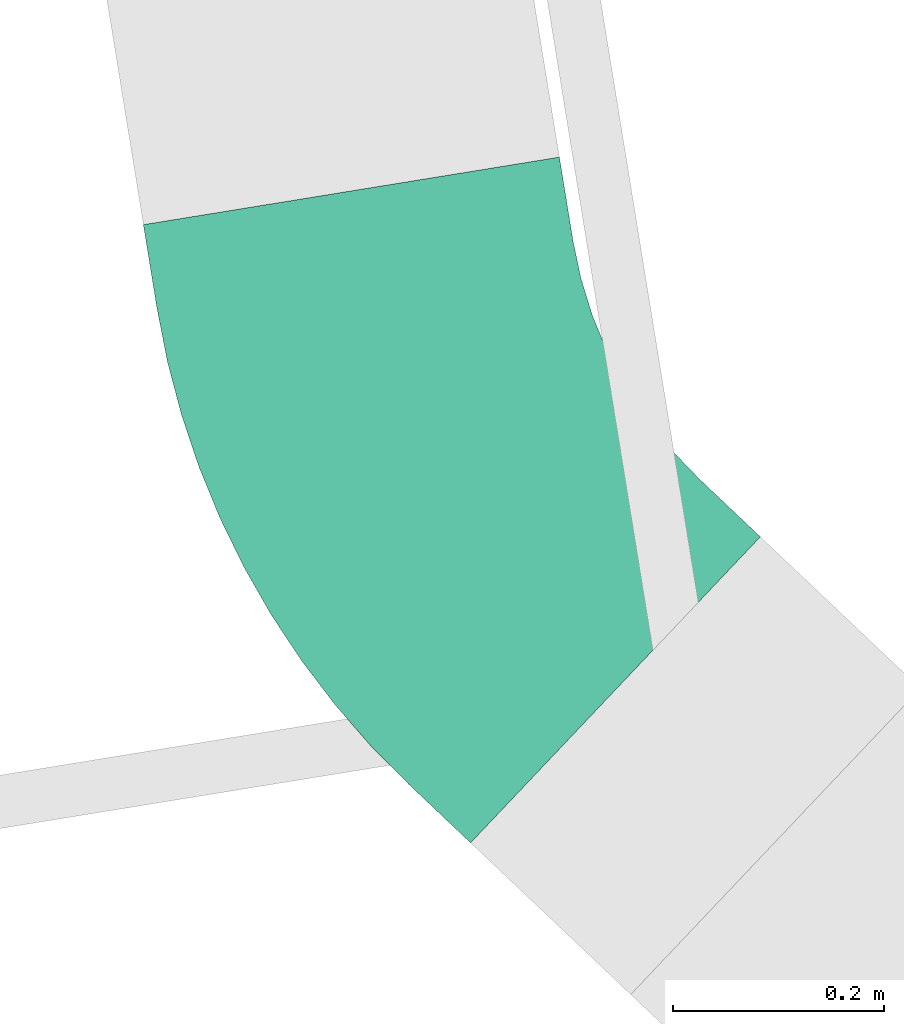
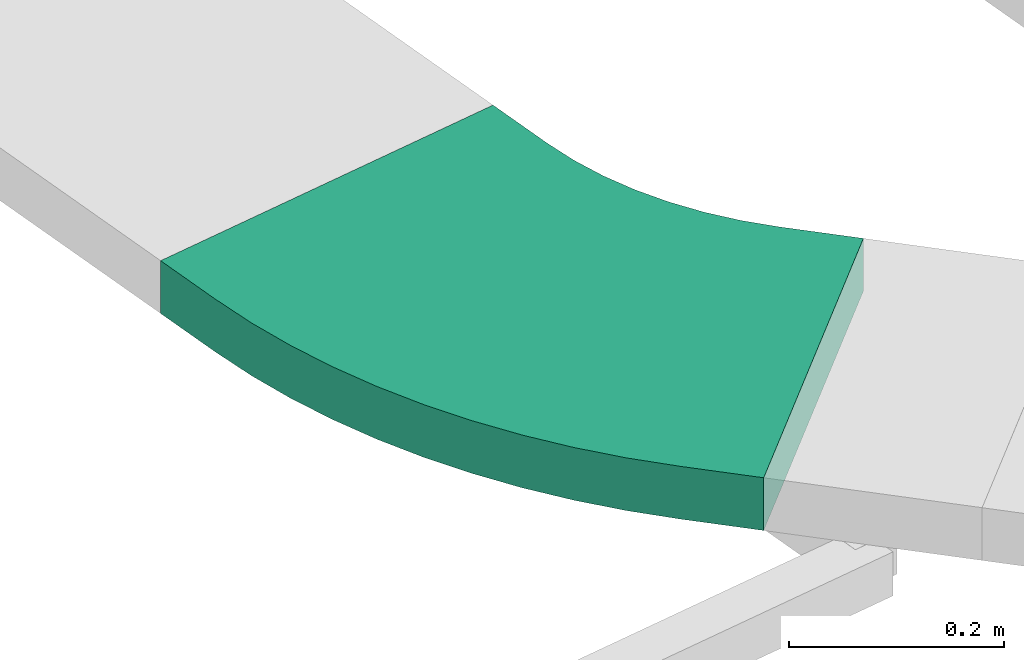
# One storey, part 4 of 20: 1 flow fitting.
"""IFC2X3 building model written with IfcOpenShell, lengths in millimetres."""

from ifc_helpers import new_model, entity, si_unit, converted_unit, derived_unit, direction, frame, frame_2d, origin, origin_with_axes, place, context, subcontext, project, spatial, polyline, circle_curve, parameter, trimmed, segment, composite_curve, outline, extrude, source, transform, mapped, material, type_object, element, save


model = new_model("IFC2X3")

# Units and contexts
model_context = context("Model", 3, precision=0.01, world=origin(), true_north=direction((6.12323399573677e-17, 1.0)))
plan_context = context("Plan", 3, precision=1e-05, world=origin_with_axes())
body_context = subcontext(model_context, "Body", "Model", "MODEL_VIEW")
ifc_project = project(units=[converted_unit("PLANEANGLEUNIT", "DEGREE", entity("IfcPositiveLengthMeasure", 0.0174532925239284), si_unit("PLANEANGLEUNIT", "RADIAN"), dimensions=[0, 0, 0, 0, 0, 0, 0]), si_unit("AREAUNIT", "SQUARE_METRE"), si_unit("LENGTHUNIT", "METRE", prefix="MILLI"), si_unit("MASSUNIT", "GRAM", prefix="KILO"), si_unit("POWERUNIT", "WATT"), si_unit("PRESSUREUNIT", "PASCAL", prefix="KILO"), si_unit("FORCEUNIT", "NEWTON", prefix="KILO"), si_unit("ELECTRICVOLTAGEUNIT", "VOLT"), si_unit("ELECTRICCURRENTUNIT", "AMPERE"), si_unit("THERMODYNAMICTEMPERATUREUNIT", "DEGREE_CELSIUS"), si_unit("TIMEUNIT", "SECOND"), si_unit("VOLUMEUNIT", "CUBIC_METRE"), derived_unit("LINEARVELOCITYUNIT", [(si_unit("LENGTHUNIT", "METRE"), 1), (si_unit("TIMEUNIT", "SECOND"), -1)]), derived_unit("VOLUMETRICFLOWRATEUNIT", [(si_unit("VOLUMEUNIT", "CUBIC_METRE"), 1), (si_unit("TIMEUNIT", "SECOND"), -1)]), derived_unit("THERMALTRANSMITTANCEUNIT", [(si_unit("POWERUNIT", "WATT"), 1), (si_unit("THERMODYNAMICTEMPERATUREUNIT", "KELVIN"), -1), (si_unit("AREAUNIT", "SQUARE_METRE"), -1)]), derived_unit("SOUNDPRESSUREUNIT", [(si_unit("PRESSUREUNIT", "PASCAL"), 1)])], contexts=[model_context, plan_context])

# Site, building, storey
site_placement = place(None, frame((-0.219946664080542, 0.12226179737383, 0.0), z_axis=(0.0, 0.0, 1.0), x_axis=(-0.160236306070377, 0.987078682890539, 0.0)))
site = spatial("IfcSite", under=ifc_project, at=site_placement, Name="Default", CompositionType="ELEMENT")
building_placement = place(site_placement, origin_with_axes())
building = spatial("IfcBuilding", under=site, at=building_placement, CompositionType="ELEMENT")
storey_placement = place(building_placement, frame((0.0, 0.0, 50999.9999999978), z_axis=(0.0, 0.0, 1.0), x_axis=(1.0, 0.0, 0.0)))
storey = spatial("IfcBuildingStorey", under=building, at=storey_placement, Name="Nivå D", CompositionType="ELEMENT", Elevation=50999.9999999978)

# Flow fitting
ifc_material = material(Name="<Unnamed>")
cable_carrier_fitting_type = type_object("IfcCableCarrierFittingType", Name="M_Ladder Horizontal Bend:Standard", PredefinedType="NOTDEFINED", material=ifc_material)
shared_shape = source(origin(), body_context, "Body", "SweptSolid", [
    extrude(outline(composite_curve([segment(polyline([(-257.876574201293, -273.626721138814), (-177.876574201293, -273.626721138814)]), True, "CONTINUOUS"), segment(trimmed(circle_curve(frame_2d((-177.876574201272, 526.373278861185), x_axis=(0.0, -1.0)), 800.0), [parameter(0.0)], [parameter(37.3431612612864)], True, "PARAMETER"), True, "CONTINUOUS"), segment(polyline([(307.393396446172, -109.640129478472), (370.994737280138, -61.113132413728)]), True, "CONTINUOUS"), segment(polyline([(370.994737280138, -61.113132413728), (128.359751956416, 256.893571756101)]), True, "CONTINUOUS"), segment(polyline([(128.359751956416, 256.893571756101), (64.7584111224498, 208.366574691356)]), True, "CONTINUOUS"), segment(trimmed(circle_curve(frame_2d((-177.876574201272, 526.373278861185), x_axis=(0.0, -1.0)), 400.0), [parameter(0.0)], [parameter(37.3431612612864)], True, "PARAMETER"), False, "CONTINUOUS"), segment(polyline([(-177.876574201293, 126.373278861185), (-257.876574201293, 126.373278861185)]), True, "CONTINUOUS"), segment(polyline([(-257.876574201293, 126.373278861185), (-257.876574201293, -273.626721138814)]), True, "CONTINUOUS")], self_intersect=False)), frame((-24.8805732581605, 73.6267211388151, -30.0)), (0.0, 0.0, 1.0), 60.0000000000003),
])
flow_fitting_placement = place(storey_placement, frame((772731.867720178, -602472.480498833, 2925.0), z_axis=(0.0, 0.0, 1.0), x_axis=(-1.0, 0.0, 0.0)))
element("IfcFlowFitting", 1, at=flow_fitting_placement, inside=storey, type_object=cable_carrier_fitting_type, material=ifc_material, Name="M_Ladder Horizontal Bend:Standard", ObjectType="M_Ladder Horizontal Bend:Standard", context=body_context, shape_type="MappedRepresentation", body=[
    mapped(shared_shape, transform((0.0, 0.0, 0.0), scale=1.0)),
])

save(model, "model.ifc")
